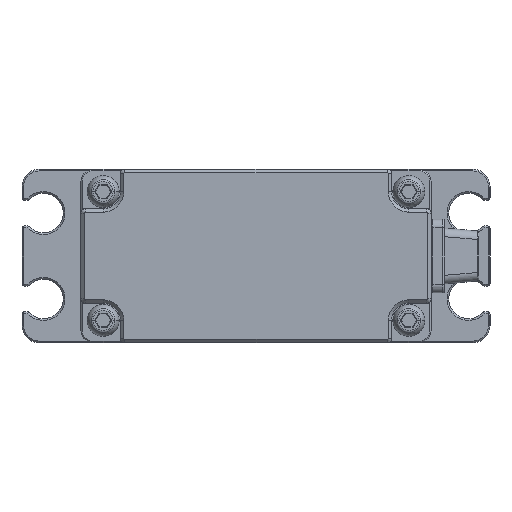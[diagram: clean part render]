
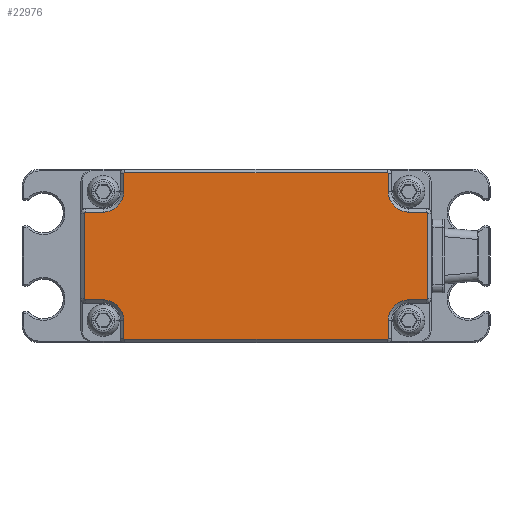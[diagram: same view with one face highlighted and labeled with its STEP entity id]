
A CAD part, front view. The second image highlights one B-rep face of the part: STEP entity #22976.
In plain terms, the highlighted planar face has unit normal (0, -1, 0).
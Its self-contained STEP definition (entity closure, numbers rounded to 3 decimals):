
#7904=CARTESIAN_POINT('',(15.3,-14.5,-9.6));
#7905=DIRECTION('',(0.,1.,0.));
#7906=DIRECTION('',(1.,0.,0.));
#7907=AXIS2_PLACEMENT_3D('',#7904,#7905,#7906);
#7909=DIRECTION('',(-1.,0.,0.));
#7910=VECTOR('',#7909,30.6);
#7911=CARTESIAN_POINT('',(15.3,-14.5,
-9.7));
#7912=LINE('',#7911,#7910);
#7913=CARTESIAN_POINT('',(-15.3,-14.5,-9.6));
#7914=DIRECTION('',(0.,1.,0.));
#7915=DIRECTION('',(0.,0.,-1.));
#7916=AXIS2_PLACEMENT_3D('',#7913,#7914,#7915);
#7918=DIRECTION('',(0.,0.,1.));
#7919=VECTOR('',#7918,2.1);
#7920=CARTESIAN_POINT('',(-15.4,-14.5,
-9.6));
#7921=LINE('',#7920,#7919);
#7922=CARTESIAN_POINT('',(-17.8,-14.5,-7.5));
#7923=DIRECTION('',(0.,-1.,0.));
#7924=DIRECTION('',(1.,0.,0.));
#7925=AXIS2_PLACEMENT_3D('',#7922,#7923,#7924);
#7927=DIRECTION('',(-1.,0.,0.));
#7928=VECTOR('',#7927,2.1);
#7929=CARTESIAN_POINT('',(-17.8,-14.5,
-5.1));
#7930=LINE('',#7929,#7928);
#7931=CARTESIAN_POINT('',(-19.9,-14.5,-5.));
#7932=DIRECTION('',(0.,1.,0.));
#7933=DIRECTION('',(0.,0.,-1.));
#7934=AXIS2_PLACEMENT_3D('',#7931,#7932,#7933);
#7936=DIRECTION('',(0.,0.,1.));
#7937=VECTOR('',#7936,10.);
#7938=CARTESIAN_POINT('',(-20.,-14.5,
-5.));
#7939=LINE('',#7938,#7937);
#7940=CARTESIAN_POINT('',(-19.9,-14.5,5.));
#7941=DIRECTION('',(0.,1.,0.));
#7942=DIRECTION('',(-1.,0.,0.));
#7943=AXIS2_PLACEMENT_3D('',#7940,#7941,#7942);
#7945=DIRECTION('',(1.,0.,0.));
#7946=VECTOR('',#7945,2.1);
#7947=CARTESIAN_POINT('',(-19.9,-14.5,
5.1));
#7948=LINE('',#7947,#7946);
#7949=CARTESIAN_POINT('',(-17.8,-14.5,7.5));
#7950=DIRECTION('',(0.,-1.,0.));
#7951=DIRECTION('',(0.,0.,-1.));
#7952=AXIS2_PLACEMENT_3D('',#7949,#7950,#7951);
#7954=DIRECTION('',(0.,0.,1.));
#7955=VECTOR('',#7954,2.1);
#7956=CARTESIAN_POINT('',(-15.4,-14.5,
7.5));
#7957=LINE('',#7956,#7955);
#7958=CARTESIAN_POINT('',(-15.3,-14.5,9.6));
#7959=DIRECTION('',(0.,1.,0.));
#7960=DIRECTION('',(-1.,0.,0.));
#7961=AXIS2_PLACEMENT_3D('',#7958,#7959,#7960);
#7963=DIRECTION('',(1.,0.,0.));
#7964=VECTOR('',#7963,30.6);
#7965=CARTESIAN_POINT('',(-15.3,-14.5,
9.7));
#7966=LINE('',#7965,#7964);
#7967=CARTESIAN_POINT('',(15.3,-14.5,9.6));
#7968=DIRECTION('',(0.,1.,0.));
#7969=DIRECTION('',(0.,0.,1.));
#7970=AXIS2_PLACEMENT_3D('',#7967,#7968,#7969);
#7972=DIRECTION('',(0.,0.,-1.));
#7973=VECTOR('',#7972,2.1);
#7974=CARTESIAN_POINT('',(15.4,-14.5,9.6));
#7975=LINE('',#7974,#7973);
#7976=CARTESIAN_POINT('',(17.8,-14.5,7.5));
#7977=DIRECTION('',(0.,-1.,0.));
#7978=DIRECTION('',(-1.,0.,0.));
#7979=AXIS2_PLACEMENT_3D('',#7976,#7977,#7978);
#7981=DIRECTION('',(1.,0.,0.));
#7982=VECTOR('',#7981,2.1);
#7983=CARTESIAN_POINT('',(17.8,-14.5,5.1));
#7984=LINE('',#7983,#7982);
#7985=CARTESIAN_POINT('',(19.9,-14.5,5.));
#7986=DIRECTION('',(0.,1.,0.));
#7987=DIRECTION('',(0.,0.,1.));
#7988=AXIS2_PLACEMENT_3D('',#7985,#7986,#7987);
#7990=DIRECTION('',(0.,0.,-1.));
#7991=VECTOR('',#7990,10.);
#7992=CARTESIAN_POINT('',(20.,-14.5,5.));
#7993=LINE('',#7992,#7991);
#7994=CARTESIAN_POINT('',(19.9,-14.5,-5.));
#7995=DIRECTION('',(0.,1.,0.));
#7996=DIRECTION('',(1.,0.,0.));
#7997=AXIS2_PLACEMENT_3D('',#7994,#7995,#7996);
#7999=DIRECTION('',(-1.,0.,0.));
#8000=VECTOR('',#7999,2.1);
#8001=CARTESIAN_POINT('',(19.9,-14.5,
-5.1));
#8002=LINE('',#8001,#8000);
#8003=CARTESIAN_POINT('',(17.8,-14.5,-7.5));
#8004=DIRECTION('',(0.,-1.,0.));
#8005=DIRECTION('',(0.,0.,1.));
#8006=AXIS2_PLACEMENT_3D('',#8003,#8004,#8005);
#8008=DIRECTION('',(0.,0.,-1.));
#8009=VECTOR('',#8008,2.1);
#8010=CARTESIAN_POINT('',(15.4,-14.5,
-7.5));
#8011=LINE('',#8010,#8009);
#11699=CARTESIAN_POINT('',(15.4,-14.5,-9.6));
#11700=CARTESIAN_POINT('',(15.3,-14.5,-9.7));
#11701=VERTEX_POINT('',#11699);
#11702=VERTEX_POINT('',#11700);
#11703=CARTESIAN_POINT('',(-15.3,-14.5,
-9.7));
#11704=VERTEX_POINT('',#11703);
#11705=CARTESIAN_POINT('',(-15.4,-14.5,-9.6));
#11706=VERTEX_POINT('',#11705);
#11707=CARTESIAN_POINT('',(-15.4,-14.5,
-7.5));
#11708=VERTEX_POINT('',#11707);
#11709=CARTESIAN_POINT('',(-17.8,-14.5,-5.1));
#11710=VERTEX_POINT('',#11709);
#11711=CARTESIAN_POINT('',(-19.9,-14.5,
-5.1));
#11712=VERTEX_POINT('',#11711);
#11713=CARTESIAN_POINT('',(-20.,-14.5,-5.));
#11714=VERTEX_POINT('',#11713);
#11715=CARTESIAN_POINT('',(-20.,-14.5,
5.));
#11716=VERTEX_POINT('',#11715);
#11717=CARTESIAN_POINT('',(-19.9,-14.5,5.1));
#11718=VERTEX_POINT('',#11717);
#11719=CARTESIAN_POINT('',(-17.8,-14.5,
5.1));
#11720=VERTEX_POINT('',#11719);
#11721=CARTESIAN_POINT('',(-15.4,-14.5,7.5));
#11722=VERTEX_POINT('',#11721);
#11723=CARTESIAN_POINT('',(-15.4,-14.5,
9.6));
#11724=VERTEX_POINT('',#11723);
#11725=CARTESIAN_POINT('',(-15.3,-14.5,9.7));
#11726=VERTEX_POINT('',#11725);
#11727=CARTESIAN_POINT('',(15.3,-14.5,
9.7));
#11728=VERTEX_POINT('',#11727);
#11729=CARTESIAN_POINT('',(15.4,-14.5,9.6));
#11730=VERTEX_POINT('',#11729);
#11731=CARTESIAN_POINT('',(15.4,-14.5,
7.5));
#11732=VERTEX_POINT('',#11731);
#11733=CARTESIAN_POINT('',(17.8,-14.5,5.1));
#11734=VERTEX_POINT('',#11733);
#11735=CARTESIAN_POINT('',(19.9,-14.5,
5.1));
#11736=VERTEX_POINT('',#11735);
#11737=CARTESIAN_POINT('',(20.,-14.5,5.));
#11738=VERTEX_POINT('',#11737);
#11739=CARTESIAN_POINT('',(20.,-14.5,
-5.));
#11740=VERTEX_POINT('',#11739);
#11741=CARTESIAN_POINT('',(19.9,-14.5,-5.1));
#11742=VERTEX_POINT('',#11741);
#11743=CARTESIAN_POINT('',(17.8,-14.5,
-5.1));
#11744=VERTEX_POINT('',#11743);
#11745=CARTESIAN_POINT('',(15.4,-14.5,-7.5));
#11746=VERTEX_POINT('',#11745);
#22922=CARTESIAN_POINT('',(0.,-14.5,0.));
#22923=DIRECTION('',(0.,1.,0.));
#22924=DIRECTION('',(1.,0.,0.));
#22925=AXIS2_PLACEMENT_3D('',#22922,#22923,#22924);
#22926=PLANE('',#22925);
#22928=ORIENTED_EDGE('',*,*,#22927,.T.);
#22930=ORIENTED_EDGE('',*,*,#22929,.T.);
#22932=ORIENTED_EDGE('',*,*,#22931,.T.);
#22934=ORIENTED_EDGE('',*,*,#22933,.T.);
#22936=ORIENTED_EDGE('',*,*,#22935,.T.);
#22938=ORIENTED_EDGE('',*,*,#22937,.T.);
#22940=ORIENTED_EDGE('',*,*,#22939,.T.);
#22942=ORIENTED_EDGE('',*,*,#22941,.T.);
#22944=ORIENTED_EDGE('',*,*,#22943,.T.);
#22946=ORIENTED_EDGE('',*,*,#22945,.T.);
#22948=ORIENTED_EDGE('',*,*,#22947,.T.);
#22950=ORIENTED_EDGE('',*,*,#22949,.T.);
#22952=ORIENTED_EDGE('',*,*,#22951,.T.);
#22954=ORIENTED_EDGE('',*,*,#22953,.T.);
#22956=ORIENTED_EDGE('',*,*,#22955,.T.);
#22958=ORIENTED_EDGE('',*,*,#22957,.T.);
#22960=ORIENTED_EDGE('',*,*,#22959,.T.);
#22962=ORIENTED_EDGE('',*,*,#22961,.T.);
#22964=ORIENTED_EDGE('',*,*,#22963,.T.);
#22966=ORIENTED_EDGE('',*,*,#22965,.T.);
#22968=ORIENTED_EDGE('',*,*,#22967,.T.);
#22969=ORIENTED_EDGE('',*,*,#22912,.T.);
#22971=ORIENTED_EDGE('',*,*,#22970,.T.);
#22973=ORIENTED_EDGE('',*,*,#22972,.T.);
#22974=EDGE_LOOP('',(#22928,#22930,#22932,#22934,#22936,#22938,#22940,#22942,
#22944,#22946,#22948,#22950,#22952,#22954,#22956,#22958,#22960,#22962,#22964,
#22966,#22968,#22969,#22971,#22973));
#22975=FACE_OUTER_BOUND('',#22974,.F.);
#7908=CIRCLE('',#7907,0.1);
#7917=CIRCLE('',#7916,0.1);
#7926=CIRCLE('',#7925,2.4);
#7935=CIRCLE('',#7934,0.1);
#7944=CIRCLE('',#7943,0.1);
#7953=CIRCLE('',#7952,2.4);
#7962=CIRCLE('',#7961,0.1);
#7971=CIRCLE('',#7970,0.1);
#7980=CIRCLE('',#7979,2.4);
#7989=CIRCLE('',#7988,0.1);
#7998=CIRCLE('',#7997,0.1);
#8007=CIRCLE('',#8006,2.4);
#22912=EDGE_CURVE('',#11742,#11744,#8002,.T.);
#22927=EDGE_CURVE('',#11701,#11702,#7908,.T.);
#22929=EDGE_CURVE('',#11702,#11704,#7912,.T.);
#22931=EDGE_CURVE('',#11704,#11706,#7917,.T.);
#22933=EDGE_CURVE('',#11706,#11708,#7921,.T.);
#22935=EDGE_CURVE('',#11708,#11710,#7926,.T.);
#22937=EDGE_CURVE('',#11710,#11712,#7930,.T.);
#22939=EDGE_CURVE('',#11712,#11714,#7935,.T.);
#22941=EDGE_CURVE('',#11714,#11716,#7939,.T.);
#22943=EDGE_CURVE('',#11716,#11718,#7944,.T.);
#22945=EDGE_CURVE('',#11718,#11720,#7948,.T.);
#22947=EDGE_CURVE('',#11720,#11722,#7953,.T.);
#22949=EDGE_CURVE('',#11722,#11724,#7957,.T.);
#22951=EDGE_CURVE('',#11724,#11726,#7962,.T.);
#22953=EDGE_CURVE('',#11726,#11728,#7966,.T.);
#22955=EDGE_CURVE('',#11728,#11730,#7971,.T.);
#22957=EDGE_CURVE('',#11730,#11732,#7975,.T.);
#22959=EDGE_CURVE('',#11732,#11734,#7980,.T.);
#22961=EDGE_CURVE('',#11734,#11736,#7984,.T.);
#22963=EDGE_CURVE('',#11736,#11738,#7989,.T.);
#22965=EDGE_CURVE('',#11738,#11740,#7993,.T.);
#22967=EDGE_CURVE('',#11740,#11742,#7998,.T.);
#22970=EDGE_CURVE('',#11744,#11746,#8007,.T.);
#22972=EDGE_CURVE('',#11746,#11701,#8011,.T.);
#22976=ADVANCED_FACE('',(#22975),#22926,.F.);
